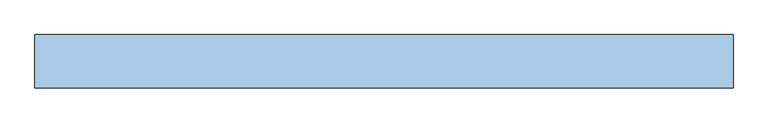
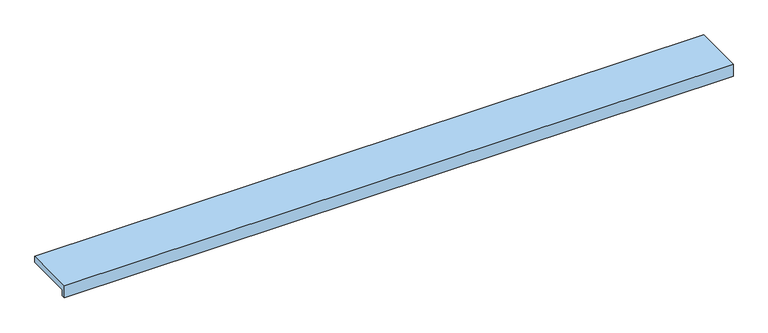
"""IFC4 building model written with IfcOpenShell, lengths in millimetres: window geometry, Окна_Подоконник : ПВХ."""

from ifc_helpers import new_model, si_unit, frame, origin, place, context, project, spatial, polyline, outline, extrude, source, transform, mapped, element, save


def window_4d62aef1(model_context):
    return source(origin(), model_context, "Body", "SweptSolid", [
        extrude(outline(polyline([(-160.0, 20.0), (0.0, 20.0), (0.0, 0.0), (-150.0, 0.0), (-150.0, -20.0), (-160.0, -20.0), (-160.0, 20.0)])), frame((-1050.0, 0.0, 0.0), z_axis=(1.0, 0.0, 0.0), x_axis=(0.0, 1.0, 0.0)), (0.0, 0.0, 1.0), 2100.0),
    ])


if __name__ == "__main__":
    model = new_model("IFC4")
    model_context = context("Model", 3, world=origin())
    ifc_project = project(units=[si_unit("LENGTHUNIT", "METRE", prefix="MILLI")], contexts=[model_context])
    site = spatial("IfcSite", under=ifc_project)
    building = spatial("IfcBuilding", under=site)
    placement = place(None, origin())
    window_shape = window_4d62aef1(model_context)
    element("IfcWindow", 1, ObjectType="Окна_Подоконник : ПВХ", at=placement, inside=building, context=model_context, shape_type="MappedRepresentation", body=[
        mapped(window_shape, transform((0.0, 0.0, 0.0), x_axis=(1.0, 0.0, 0.0), y_axis=(0.0, 1.0, 0.0), z_axis=(0.0, 0.0, 1.0))),
    ])
    save(model, "model.ifc")
